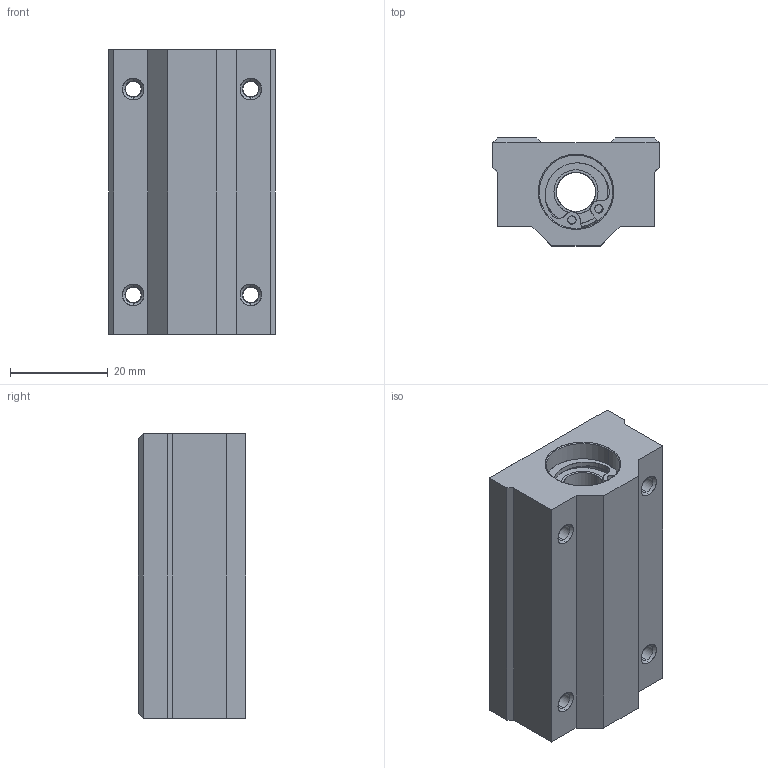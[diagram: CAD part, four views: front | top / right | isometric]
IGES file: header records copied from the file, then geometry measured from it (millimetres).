
Start section: SolidWorks IGES file using analytic representation for surfaces
Global section: file name: D:\SOLIDWORKS PROEKTI\freelance cnc cat\VTORA SERIJA\SC-LUU\SC8LUU.IGS; native system: SolidWorks 2016; preprocessor: SolidWorks 2016; author: User; date: 170806.100704; units: millimetre
Bounding box: 34 x 22 x 58 mm (x, y, z)
Surface area: 15173.9 mm2 (no closed solid volume)
Topology: 0 solids, 0 shells, 436 faces, 9965 edges, 12179 vertices
Faces by surface type: bspline 298, revolution 138
